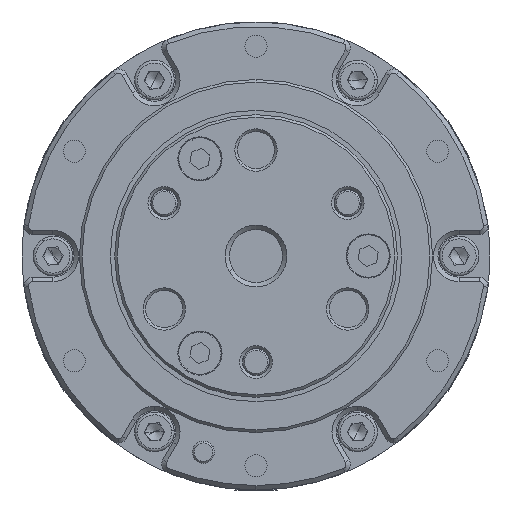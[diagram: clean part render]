
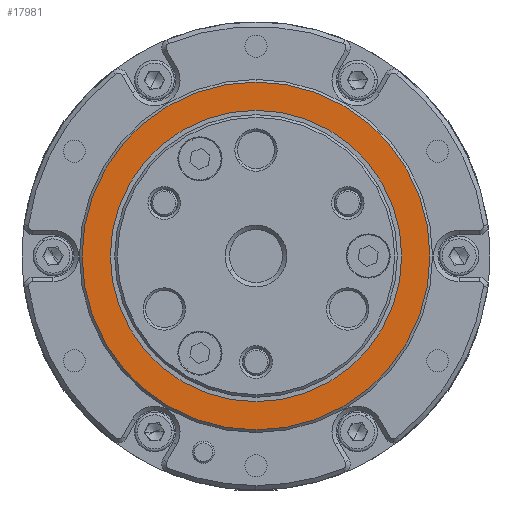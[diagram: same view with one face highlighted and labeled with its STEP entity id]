
A CAD part, front view. The second image highlights one B-rep face of the part: STEP entity #17981.
In plain terms, the highlighted planar face has unit normal (0, -1, 0).
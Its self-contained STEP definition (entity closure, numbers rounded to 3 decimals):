
#2934 = CARTESIAN_POINT ( 'NONE',  ( 0., -44., 0. ) ) ;
#4770 = DIRECTION ( 'NONE',  ( 0., -1., 0. ) ) ;
#5417 = DIRECTION ( 'NONE',  ( 0., -1., 0. ) ) ;
#8135 = CARTESIAN_POINT ( 'NONE',  ( 0., -44., 19.7 ) ) ;
#8958 = DIRECTION ( 'NONE',  ( 0., 0., -1. ) ) ;
#10496 = DIRECTION ( 'NONE',  ( 0., 0., -1. ) ) ;
#10506 = DIRECTION ( 'NONE',  ( 0., 0., 1. ) ) ;
#11670 = DIRECTION ( 'NONE',  ( 0., 0., 1. ) ) ;
#12982 = CARTESIAN_POINT ( 'NONE',  ( 0., -44., 16.5 ) ) ;
#12990 = EDGE_CURVE ( 'NONE', #49638, #43027, #54484, .T. ) ;
#16446 = AXIS2_PLACEMENT_3D ( 'NONE', #41756, #37629, #10496 ) ;
#17981 = ADVANCED_FACE ( 'NONE', ( #20385, #55791 ), #54924, .F. ) ;
#19521 = CIRCLE ( 'NONE', #48469, 16.5 ) ;
#19536 = DIRECTION ( 'NONE',  ( 0., -1., 0. ) ) ;
#20385 = FACE_OUTER_BOUND ( 'NONE', #52740, .T. ) ;
#20428 = CIRCLE ( 'NONE', #53127, 19.7 ) ;
#20882 = CARTESIAN_POINT ( 'NONE',  ( 0., -44., 0. ) ) ;
#22216 = ORIENTED_EDGE ( 'NONE', *, *, #12990, .T. ) ;
#24527 = VERTEX_POINT ( 'NONE', #40908 ) ;
#25912 = CIRCLE ( 'NONE', #36032, 16.5 ) ;
#26570 = EDGE_CURVE ( 'NONE', #24527, #43749, #19521, .T. ) ;
#29231 = AXIS2_PLACEMENT_3D ( 'NONE', #34821, #4770, #52702 ) ;
#34821 = CARTESIAN_POINT ( 'NONE',  ( 0., -44., 0. ) ) ;
#35804 = ORIENTED_EDGE ( 'NONE', *, *, #26570, .F. ) ;
#36032 = AXIS2_PLACEMENT_3D ( 'NONE', #20882, #19536, #10506 ) ;
#36906 = EDGE_CURVE ( 'NONE', #43749, #24527, #25912, .T. ) ;
#37629 = DIRECTION ( 'NONE',  ( 0., 1., 0. ) ) ;
#40908 = CARTESIAN_POINT ( 'NONE',  ( 0., -44., -16.5 ) ) ;
#41756 = CARTESIAN_POINT ( 'NONE',  ( -16.5, -44., 0. ) ) ;
#43027 = VERTEX_POINT ( 'NONE', #55822 ) ;
#43520 = DIRECTION ( 'NONE',  ( 0., -1., 0. ) ) ;
#43749 = VERTEX_POINT ( 'NONE', #12982 ) ;
#45451 = CARTESIAN_POINT ( 'NONE',  ( 0., -44., 0. ) ) ;
#46974 = EDGE_CURVE ( 'NONE', #43027, #49638, #20428, .T. ) ;
#48469 = AXIS2_PLACEMENT_3D ( 'NONE', #2934, #43520, #11670 ) ;
#49638 = VERTEX_POINT ( 'NONE', #8135 ) ;
#52702 = DIRECTION ( 'NONE',  ( 0., 0., -1. ) ) ;
#52740 = EDGE_LOOP ( 'NONE', ( #53171, #22216 ) ) ;
#53127 = AXIS2_PLACEMENT_3D ( 'NONE', #45451, #5417, #8958 ) ;
#53171 = ORIENTED_EDGE ( 'NONE', *, *, #46974, .T. ) ;
#53943 = ORIENTED_EDGE ( 'NONE', *, *, #36906, .F. ) ;
#54484 = CIRCLE ( 'NONE', #29231, 19.7 ) ;
#54924 = PLANE ( 'NONE',  #16446 ) ;
#55527 = EDGE_LOOP ( 'NONE', ( #53943, #35804 ) ) ;
#55791 = FACE_BOUND ( 'NONE', #55527, .T. ) ;
#55822 = CARTESIAN_POINT ( 'NONE',  ( 0., -44., -19.7 ) ) ;
